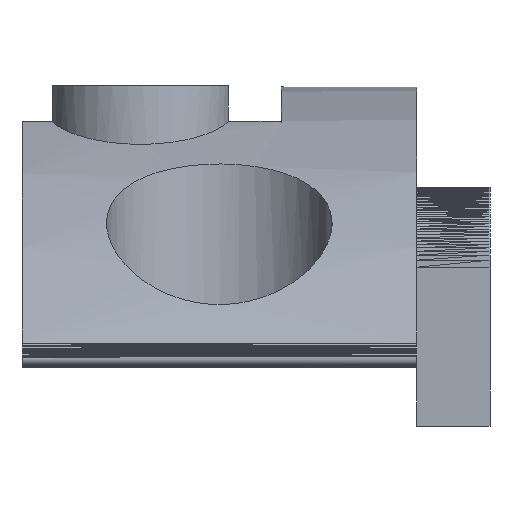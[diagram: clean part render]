
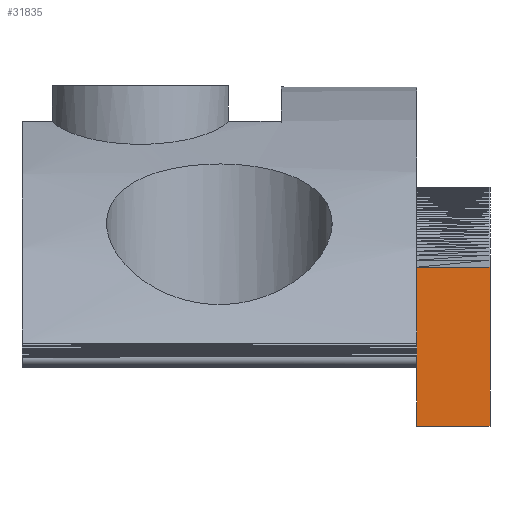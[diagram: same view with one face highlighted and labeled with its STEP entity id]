
A CAD part, left-side view. The second image highlights one B-rep face of the part: STEP entity #31835.
In plain terms, the highlighted planar face has unit normal (-1, 0, 0).
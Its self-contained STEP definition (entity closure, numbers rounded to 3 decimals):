
#3172 = PLANE('',#3173);
#3173 = AXIS2_PLACEMENT_3D('',#3174,#3175,#3176);
#3174 = CARTESIAN_POINT('',(-7.788,5.752,
    1.925));
#3175 = DIRECTION('',(0.,-1.,0.));
#3176 = DIRECTION('',(-0.,0.,1.));
#3265 = PLANE('',#3266);
#3266 = AXIS2_PLACEMENT_3D('',#3267,#3268,#3269);
#3267 = CARTESIAN_POINT('',(-7.618,4.452,2.648
    ));
#3268 = DIRECTION('',(0.,1.,0.));
#3269 = DIRECTION('',(0.,0.,-1.));
#14604 = VERTEX_POINT('',#14605);
#14605 = CARTESIAN_POINT('',(-11.363,4.452,
    -1.038));
#14612 = PLANE('',#14613);
#14613 = AXIS2_PLACEMENT_3D('',#14614,#14615,#14616);
#14614 = CARTESIAN_POINT('',(-7.618,5.102,
    -1.038));
#14615 = DIRECTION('',(0.,0.,1.));
#14616 = DIRECTION('',(0.,1.,0.));
#14631 = EDGE_CURVE('',#14604,#14632,#14634,.T.);
#14632 = VERTEX_POINT('',#14633);
#14633 = CARTESIAN_POINT('',(-11.363,5.752,
    -1.038));
#14634 = SURFACE_CURVE('',#14635,(#14639,#14646),.PCURVE_S1.);
#14635 = LINE('',#14636,#14637);
#14636 = CARTESIAN_POINT('',(-11.363,5.167,
    -1.038));
#14637 = VECTOR('',#14638,1.);
#14638 = DIRECTION('',(-0.,1.,-0.));
#14639 = PCURVE('',#14612,#14640);
#14640 = DEFINITIONAL_REPRESENTATION('',(#14641),#14645);
#14641 = LINE('',#14642,#14643);
#14642 = CARTESIAN_POINT('',(0.065,3.744));
#14643 = VECTOR('',#14644,1.);
#14644 = DIRECTION('',(1.,0.));
#14645 = ( GEOMETRIC_REPRESENTATION_CONTEXT(2) 
PARAMETRIC_REPRESENTATION_CONTEXT() REPRESENTATION_CONTEXT('2D SPACE',''
  ) );
#14646 = PCURVE('',#14647,#14652);
#14647 = PLANE('',#14648);
#14648 = AXIS2_PLACEMENT_3D('',#14649,#14650,#14651);
#14649 = CARTESIAN_POINT('',(-11.363,5.232,
    0.298));
#14650 = DIRECTION('',(-1.,-0.,-0.));
#14651 = DIRECTION('',(0.,0.,-1.));
#14652 = DEFINITIONAL_REPRESENTATION('',(#14653),#14657);
#14653 = LINE('',#14654,#14655);
#14654 = CARTESIAN_POINT('',(1.335,0.065));
#14655 = VECTOR('',#14656,1.);
#14656 = DIRECTION('',(0.,-1.));
#14657 = ( GEOMETRIC_REPRESENTATION_CONTEXT(2) 
PARAMETRIC_REPRESENTATION_CONTEXT() REPRESENTATION_CONTEXT('2D SPACE',''
  ) );
#14746 = VERTEX_POINT('',#14747);
#14747 = CARTESIAN_POINT('',(-11.363,5.752,
    0.));
#15021 = PLANE('',#15022);
#15022 = AXIS2_PLACEMENT_3D('',#15023,#15024,#15025);
#15023 = CARTESIAN_POINT('',(-7.618,5.752,
    0.));
#15024 = DIRECTION('',(0.,1.,0.));
#15025 = DIRECTION('',(0.,0.,1.));
#27012 = EDGE_CURVE('',#14746,#27013,#27015,.T.);
#27013 = VERTEX_POINT('',#27014);
#27014 = CARTESIAN_POINT('',(-11.363,5.752,
    1.782));
#27015 = SURFACE_CURVE('',#27016,(#27020,#27027),.PCURVE_S1.);
#27016 = LINE('',#27017,#27018);
#27017 = CARTESIAN_POINT('',(-11.363,5.752,
    1.111));
#27018 = VECTOR('',#27019,1.);
#27019 = DIRECTION('',(-0.,-0.,1.));
#27020 = PCURVE('',#3172,#27021);
#27021 = DEFINITIONAL_REPRESENTATION('',(#27022),#27026);
#27022 = LINE('',#27023,#27024);
#27023 = CARTESIAN_POINT('',(-0.814,3.574));
#27024 = VECTOR('',#27025,1.);
#27025 = DIRECTION('',(1.,0.));
#27026 = ( GEOMETRIC_REPRESENTATION_CONTEXT(2) 
PARAMETRIC_REPRESENTATION_CONTEXT() REPRESENTATION_CONTEXT('2D SPACE',''
  ) );
#27027 = PCURVE('',#14647,#27028);
#27028 = DEFINITIONAL_REPRESENTATION('',(#27029),#27033);
#27029 = LINE('',#27030,#27031);
#27030 = CARTESIAN_POINT('',(-0.814,-0.52));
#27031 = VECTOR('',#27032,1.);
#27032 = DIRECTION('',(-1.,0.));
#27033 = ( GEOMETRIC_REPRESENTATION_CONTEXT(2) 
PARAMETRIC_REPRESENTATION_CONTEXT() REPRESENTATION_CONTEXT('2D SPACE',''
  ) );
#28355 = EDGE_CURVE('',#27013,#28356,#28358,.T.);
#28356 = VERTEX_POINT('',#28357);
#28357 = CARTESIAN_POINT('',(-11.363,4.452,
    1.782));
#28358 = SURFACE_CURVE('',#28359,(#28364,#28377),.PCURVE_S1.);
#28359 = B_SPLINE_CURVE_WITH_KNOTS('',3,(#28360,#28361,#28362,#28363),
  .UNSPECIFIED.,.F.,.F.,(4,4),(0.,1.),.PIECEWISE_BEZIER_KNOTS.);
#28360 = CARTESIAN_POINT('',(-11.363,5.752,
    1.782));
#28361 = CARTESIAN_POINT('',(-11.363,5.319,
    1.782));
#28362 = CARTESIAN_POINT('',(-11.363,4.886,
    1.782));
#28363 = CARTESIAN_POINT('',(-11.363,4.452,
    1.782));
#28364 = PCURVE('',#28365,#28370);
#28365 = PLANE('',#28366);
#28366 = AXIS2_PLACEMENT_3D('',#28367,#28368,#28369);
#28367 = CARTESIAN_POINT('',(-11.362,4.452,
    1.844));
#28368 = DIRECTION('',(-1.,0.,
    0.008));
#28369 = DIRECTION('',(-0.008,0.,
    -1.));
#28370 = DEFINITIONAL_REPRESENTATION('',(#28371),#28376);
#28371 = B_SPLINE_CURVE_WITH_KNOTS('',3,(#28372,#28373,#28374,#28375),
  .UNSPECIFIED.,.F.,.F.,(4,4),(0.,1.),.PIECEWISE_BEZIER_KNOTS.);
#28372 = CARTESIAN_POINT('',(0.062,-1.3));
#28373 = CARTESIAN_POINT('',(0.062,-0.867));
#28374 = CARTESIAN_POINT('',(0.062,-0.433));
#28375 = CARTESIAN_POINT('',(0.062,0.));
#28376 = ( GEOMETRIC_REPRESENTATION_CONTEXT(2) 
PARAMETRIC_REPRESENTATION_CONTEXT() REPRESENTATION_CONTEXT('2D SPACE',''
  ) );
#28377 = PCURVE('',#14647,#28378);
#28378 = DEFINITIONAL_REPRESENTATION('',(#28379),#28384);
#28379 = B_SPLINE_CURVE_WITH_KNOTS('',3,(#28380,#28381,#28382,#28383),
  .UNSPECIFIED.,.F.,.F.,(4,4),(0.,1.),.PIECEWISE_BEZIER_KNOTS.);
#28380 = CARTESIAN_POINT('',(-1.484,-0.52));
#28381 = CARTESIAN_POINT('',(-1.484,-0.087));
#28382 = CARTESIAN_POINT('',(-1.484,0.347));
#28383 = CARTESIAN_POINT('',(-1.484,0.78));
#28384 = ( GEOMETRIC_REPRESENTATION_CONTEXT(2) 
PARAMETRIC_REPRESENTATION_CONTEXT() REPRESENTATION_CONTEXT('2D SPACE',''
  ) );
#31835 = ADVANCED_FACE('',(#31836),#14647,.T.);
#31836 = FACE_BOUND('',#31837,.T.);
#31837 = EDGE_LOOP('',(#31838,#31839,#31840,#31864,#31865));
#31838 = ORIENTED_EDGE('',*,*,#28355,.F.);
#31839 = ORIENTED_EDGE('',*,*,#27012,.F.);
#31840 = ORIENTED_EDGE('',*,*,#31841,.T.);
#31841 = EDGE_CURVE('',#14746,#14632,#31842,.T.);
#31842 = SURFACE_CURVE('',#31843,(#31848,#31856),.PCURVE_S1.);
#31843 = B_SPLINE_CURVE_WITH_KNOTS('',3,(#31844,#31845,#31846,#31847),
  .UNSPECIFIED.,.F.,.F.,(4,4),(0.,1.),.PIECEWISE_BEZIER_KNOTS.);
#31844 = CARTESIAN_POINT('',(-11.363,5.752,
    0.));
#31845 = CARTESIAN_POINT('',(-11.363,5.752,
    -0.346));
#31846 = CARTESIAN_POINT('',(-11.363,5.752,
    -0.692));
#31847 = CARTESIAN_POINT('',(-11.363,5.752,
    -1.038));
#31848 = PCURVE('',#14647,#31849);
#31849 = DEFINITIONAL_REPRESENTATION('',(#31850),#31855);
#31850 = B_SPLINE_CURVE_WITH_KNOTS('',3,(#31851,#31852,#31853,#31854),
  .UNSPECIFIED.,.F.,.F.,(4,4),(0.,1.),.PIECEWISE_BEZIER_KNOTS.);
#31851 = CARTESIAN_POINT('',(0.298,-0.52));
#31852 = CARTESIAN_POINT('',(0.644,-0.52));
#31853 = CARTESIAN_POINT('',(0.99,-0.52));
#31854 = CARTESIAN_POINT('',(1.335,-0.52));
#31855 = ( GEOMETRIC_REPRESENTATION_CONTEXT(2) 
PARAMETRIC_REPRESENTATION_CONTEXT() REPRESENTATION_CONTEXT('2D SPACE',''
  ) );
#31856 = PCURVE('',#15021,#31857);
#31857 = DEFINITIONAL_REPRESENTATION('',(#31858),#31863);
#31858 = B_SPLINE_CURVE_WITH_KNOTS('',3,(#31859,#31860,#31861,#31862),
  .UNSPECIFIED.,.F.,.F.,(4,4),(0.,1.),.PIECEWISE_BEZIER_KNOTS.);
#31859 = CARTESIAN_POINT('',(0.,-3.744));
#31860 = CARTESIAN_POINT('',(-0.346,-3.744));
#31861 = CARTESIAN_POINT('',(-0.692,-3.744));
#31862 = CARTESIAN_POINT('',(-1.038,-3.744));
#31863 = ( GEOMETRIC_REPRESENTATION_CONTEXT(2) 
PARAMETRIC_REPRESENTATION_CONTEXT() REPRESENTATION_CONTEXT('2D SPACE',''
  ) );
#31864 = ORIENTED_EDGE('',*,*,#14631,.F.);
#31865 = ORIENTED_EDGE('',*,*,#31866,.T.);
#31866 = EDGE_CURVE('',#14604,#28356,#31867,.T.);
#31867 = SURFACE_CURVE('',#31868,(#31872,#31879),.PCURVE_S1.);
#31868 = LINE('',#31869,#31870);
#31869 = CARTESIAN_POINT('',(-11.363,4.452,
    1.473));
#31870 = VECTOR('',#31871,1.);
#31871 = DIRECTION('',(-0.,-0.,1.));
#31872 = PCURVE('',#14647,#31873);
#31873 = DEFINITIONAL_REPRESENTATION('',(#31874),#31878);
#31874 = LINE('',#31875,#31876);
#31875 = CARTESIAN_POINT('',(-1.175,0.78));
#31876 = VECTOR('',#31877,1.);
#31877 = DIRECTION('',(-1.,0.));
#31878 = ( GEOMETRIC_REPRESENTATION_CONTEXT(2) 
PARAMETRIC_REPRESENTATION_CONTEXT() REPRESENTATION_CONTEXT('2D SPACE',''
  ) );
#31879 = PCURVE('',#3265,#31880);
#31880 = DEFINITIONAL_REPRESENTATION('',(#31881),#31885);
#31881 = LINE('',#31882,#31883);
#31882 = CARTESIAN_POINT('',(1.175,3.744));
#31883 = VECTOR('',#31884,1.);
#31884 = DIRECTION('',(-1.,0.));
#31885 = ( GEOMETRIC_REPRESENTATION_CONTEXT(2) 
PARAMETRIC_REPRESENTATION_CONTEXT() REPRESENTATION_CONTEXT('2D SPACE',''
  ) );
